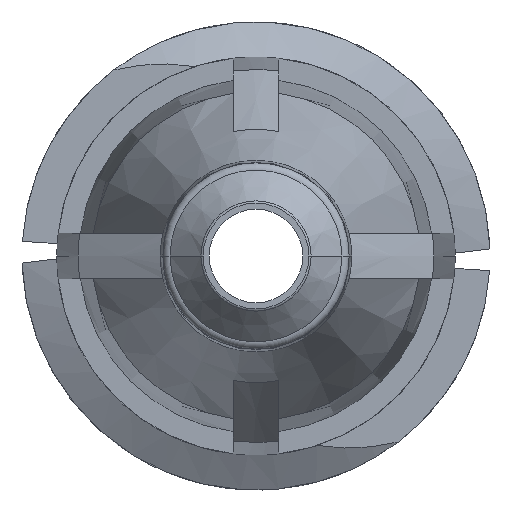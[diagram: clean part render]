
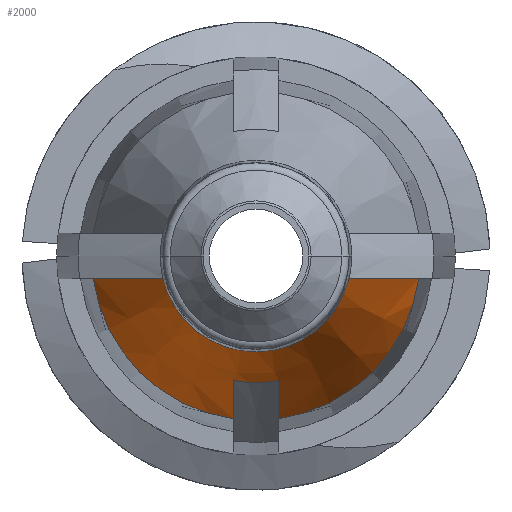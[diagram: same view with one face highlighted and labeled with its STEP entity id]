
A CAD part, front view. The second image highlights one B-rep face of the part: STEP entity #2000.
In plain terms, the highlighted conical face has half-angle 20 degrees and reference radius 2.745 mm.
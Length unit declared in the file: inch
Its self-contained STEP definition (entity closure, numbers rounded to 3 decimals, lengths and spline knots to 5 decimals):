
#4 = EDGE_CURVE ( 'NONE', #16, #1209, #1327, .T. ) ;
#16 = VERTEX_POINT ( 'NONE', #2120 ) ;
#74 = CARTESIAN_POINT ( 'NONE',  ( -0.07664, -0.48863, -0.015 ) ) ;
#156 = DIRECTION ( 'NONE',  ( 0., 1., 0. ) ) ;
#241 = CARTESIAN_POINT ( 'NONE',  ( -0.015, -0.47395, -0.08198 ) ) ;
#255 = CARTESIAN_POINT ( 'NONE',  ( 0., -0.406, 0. ) ) ;
#272 = EDGE_CURVE ( 'NONE', #2781, #1209, #1839, .T. ) ;
#369 = VERTEX_POINT ( 'NONE', #3358 ) ;
#387 = CARTESIAN_POINT ( 'NONE',  ( 0.09185, -0.44732, -0.015 ) ) ;
#402 = CARTESIAN_POINT ( 'NONE',  ( 0.06119, -0.52985, -0.015 ) ) ;
#406 = EDGE_CURVE ( 'NONE', #481, #16, #478, .T. ) ;
#478 = CIRCLE ( 'NONE', #3255, 0.063 ) ;
#481 = VERTEX_POINT ( 'NONE', #2084 ) ;
#517 = CARTESIAN_POINT ( 'NONE',  ( 0.015, -0.45131, -0.09036 ) ) ;
#665 = CARTESIAN_POINT ( 'NONE',  ( -0.015, -0.406, -0.10703 ) ) ;
#730 = ORIENTED_EDGE ( 'NONE', *, *, #1647, .F. ) ;
#732 = CARTESIAN_POINT ( 'NONE',  ( 0.10703, -0.406, -0.015 ) ) ;
#736 = CARTESIAN_POINT ( 'NONE',  ( 0., -0.52985, 0. ) ) ;
#763 = AXIS2_PLACEMENT_3D ( 'NONE', #255, #1266, #3350 ) ;
#852 = ORIENTED_EDGE ( 'NONE', *, *, #2401, .F. ) ;
#893 = DIRECTION ( 'NONE',  ( 1., 0., 0. ) ) ;
#966 = B_SPLINE_CURVE_WITH_KNOTS ( 'NONE', 3,
 ( #1272, #2060, #517, #2388 ),
 .UNSPECIFIED., .F., .F.,
 ( 4, 4 ),
 ( 0.00343, 0.00527 ),
 .UNSPECIFIED. ) ;
#974 = AXIS2_PLACEMENT_3D ( 'NONE', #2476, #156, #2512 ) ;
#1013 = VERTEX_POINT ( 'NONE', #241 ) ;
#1052 = ORIENTED_EDGE ( 'NONE', *, *, #406, .T. ) ;
#1114 = CARTESIAN_POINT ( 'NONE',  ( -0.10703, -0.406, -0.015 ) ) ;
#1209 = VERTEX_POINT ( 'NONE', #1600 ) ;
#1246 = VERTEX_POINT ( 'NONE', #1888 ) ;
#1248 = B_SPLINE_CURVE_WITH_KNOTS ( 'NONE', 3,
 ( #402, #2749, #387, #2732 ),
 .UNSPECIFIED., .F., .F.,
 ( 4, 4 ),
 ( 0.00282, 0.00617 ),
 .UNSPECIFIED. ) ;
#1254 = ORIENTED_EDGE ( 'NONE', *, *, #3024, .F. ) ;
#1266 = DIRECTION ( 'NONE',  ( 0., 1., 0. ) ) ;
#1272 = CARTESIAN_POINT ( 'NONE',  ( 0.015, -0.406, -0.10703 ) ) ;
#1327 = B_SPLINE_CURVE_WITH_KNOTS ( 'NONE', 3,
 ( #3142, #74, #2622, #1114 ),
 .UNSPECIFIED., .F., .F.,
 ( 4, 4 ),
 ( 0.00282, 0.00617 ),
 .UNSPECIFIED. ) ;
#1451 = CARTESIAN_POINT ( 'NONE',  ( -0.015, -0.47395, -0.08198 ) ) ;
#1505 = CARTESIAN_POINT ( 'NONE',  ( 0., -0.47395, 0. ) ) ;
#1600 = CARTESIAN_POINT ( 'NONE',  ( -0.10703, -0.406, -0.015 ) ) ;
#1647 = EDGE_CURVE ( 'NONE', #481, #2004, #1248, .T. ) ;
#1665 = CARTESIAN_POINT ( 'NONE',  ( -0.015, -0.42866, -0.0987 ) ) ;
#1682 = CIRCLE ( 'NONE', #763, 0.10808 ) ;
#1739 = CONICAL_SURFACE ( 'NONE', #974, 0.10808, 0.349 ) ;
#1839 = CIRCLE ( 'NONE', #2256, 0.10808 ) ;
#1888 = CARTESIAN_POINT ( 'NONE',  ( 0.015, -0.406, -0.10703 ) ) ;
#1897 = ORIENTED_EDGE ( 'NONE', *, *, #3241, .F. ) ;
#1961 = CARTESIAN_POINT ( 'NONE',  ( -0.015, -0.45131, -0.09036 ) ) ;
#1981 = ORIENTED_EDGE ( 'NONE', *, *, #2384, .F. ) ;
#2000 = ADVANCED_FACE ( 'NONE', ( #3086 ), #1739, .T. ) ;
#2004 = VERTEX_POINT ( 'NONE', #732 ) ;
#2030 = EDGE_LOOP ( 'NONE', ( #730, #1052, #3112, #3023, #1897, #1981, #1254, #852 ) ) ;
#2060 = CARTESIAN_POINT ( 'NONE',  ( 0.015, -0.42866, -0.0987 ) ) ;
#2084 = CARTESIAN_POINT ( 'NONE',  ( 0.06119, -0.52985, -0.015 ) ) ;
#2120 = CARTESIAN_POINT ( 'NONE',  ( -0.06119, -0.52985, -0.015 ) ) ;
#2121 = CIRCLE ( 'NONE', #3217, 0.08335 ) ;
#2145 = CARTESIAN_POINT ( 'NONE',  ( -0.015, -0.406, -0.10703 ) ) ;
#2197 = CARTESIAN_POINT ( 'NONE',  ( 0., -0.406, 0. ) ) ;
#2256 = AXIS2_PLACEMENT_3D ( 'NONE', #2197, #2432, #893 ) ;
#2267 = DIRECTION ( 'NONE',  ( 0., 1., 0. ) ) ;
#2384 = EDGE_CURVE ( 'NONE', #369, #1013, #2121, .T. ) ;
#2388 = CARTESIAN_POINT ( 'NONE',  ( 0.015, -0.47395, -0.08198 ) ) ;
#2401 = EDGE_CURVE ( 'NONE', #2004, #1246, #1682, .T. ) ;
#2432 = DIRECTION ( 'NONE',  ( 0., 1., 0. ) ) ;
#2476 = CARTESIAN_POINT ( 'NONE',  ( 0., -0.406, 0. ) ) ;
#2512 = DIRECTION ( 'NONE',  ( 1., 0., 0. ) ) ;
#2579 = DIRECTION ( 'NONE',  ( -1., 0., 0. ) ) ;
#2622 = CARTESIAN_POINT ( 'NONE',  ( -0.09185, -0.44732, -0.015 ) ) ;
#2732 = CARTESIAN_POINT ( 'NONE',  ( 0.10703, -0.406, -0.015 ) ) ;
#2749 = CARTESIAN_POINT ( 'NONE',  ( 0.07664, -0.48863, -0.015 ) ) ;
#2781 = VERTEX_POINT ( 'NONE', #2145 ) ;
#3023 = ORIENTED_EDGE ( 'NONE', *, *, #272, .F. ) ;
#3024 = EDGE_CURVE ( 'NONE', #1246, #369, #966, .T. ) ;
#3086 = FACE_OUTER_BOUND ( 'NONE', #2030, .T. ) ;
#3090 = DIRECTION ( 'NONE',  ( 1., 0., 0. ) ) ;
#3112 = ORIENTED_EDGE ( 'NONE', *, *, #4, .T. ) ;
#3142 = CARTESIAN_POINT ( 'NONE',  ( -0.06119, -0.52985, -0.015 ) ) ;
#3203 = B_SPLINE_CURVE_WITH_KNOTS ( 'NONE', 3,
 ( #1451, #1961, #1665, #665 ),
 .UNSPECIFIED., .F., .F.,
 ( 4, 4 ),
 ( 0.00247, 0.00431 ),
 .UNSPECIFIED. ) ;
#3217 = AXIS2_PLACEMENT_3D ( 'NONE', #1505, #3382, #2579 ) ;
#3241 = EDGE_CURVE ( 'NONE', #1013, #2781, #3203, .T. ) ;
#3255 = AXIS2_PLACEMENT_3D ( 'NONE', #736, #2267, #3090 ) ;
#3350 = DIRECTION ( 'NONE',  ( 1., 0., 0. ) ) ;
#3358 = CARTESIAN_POINT ( 'NONE',  ( 0.015, -0.47395, -0.08198 ) ) ;
#3382 = DIRECTION ( 'NONE',  ( 0., 1., 0. ) ) ;
